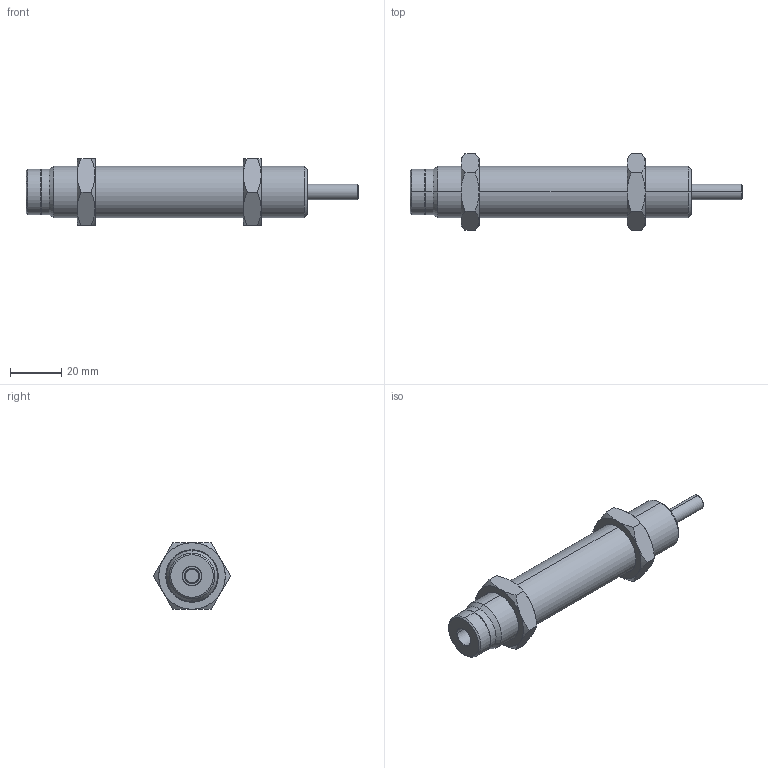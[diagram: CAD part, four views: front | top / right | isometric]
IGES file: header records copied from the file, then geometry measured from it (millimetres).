
Start section: SolidWorks IGES file using analytic representation for surfaces
Global section: file name: D:\IGS跡宒\AC2020-N.IGS,1; native system: 5HSolidWorks 2013; preprocessor: SolidWorks 2013; author: Administrator; date: 160406.152047; units: inch
Bounding box: 129.87 x 30.02 x 26 mm (x, y, z)
Surface area: 11541.3 mm2 (no closed solid volume)
Topology: 0 solids, 0 shells, 88 faces, 1320 edges, 1320 vertices
Faces by surface type: revolution 66, bspline 22
